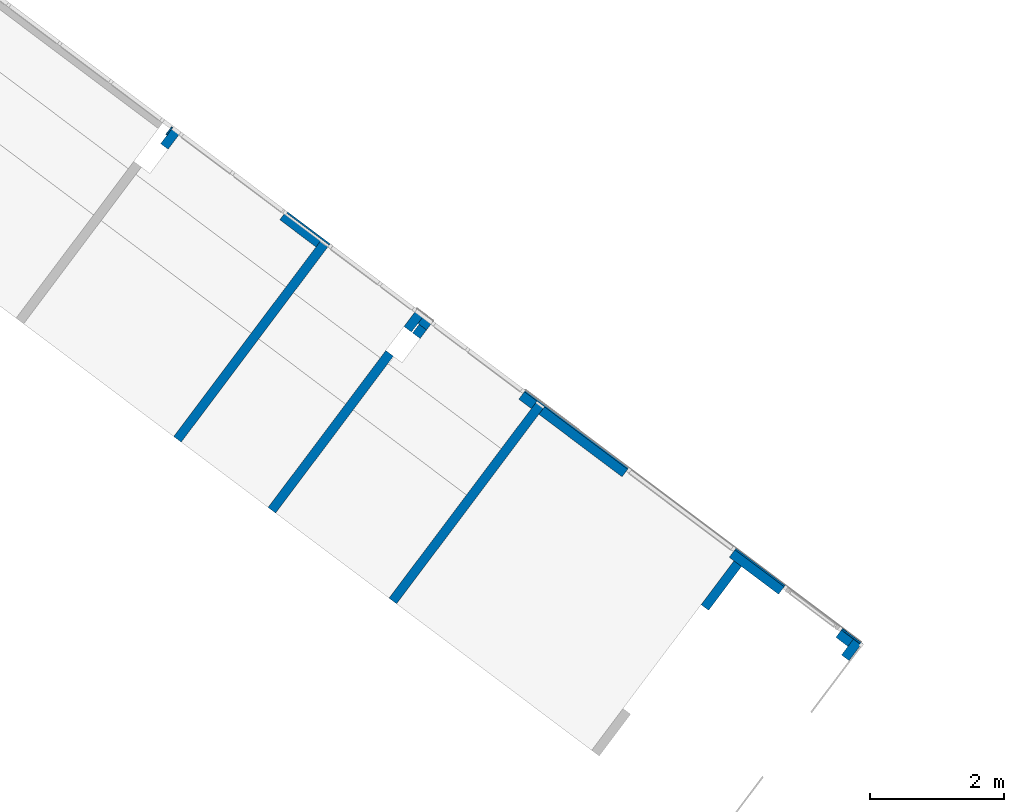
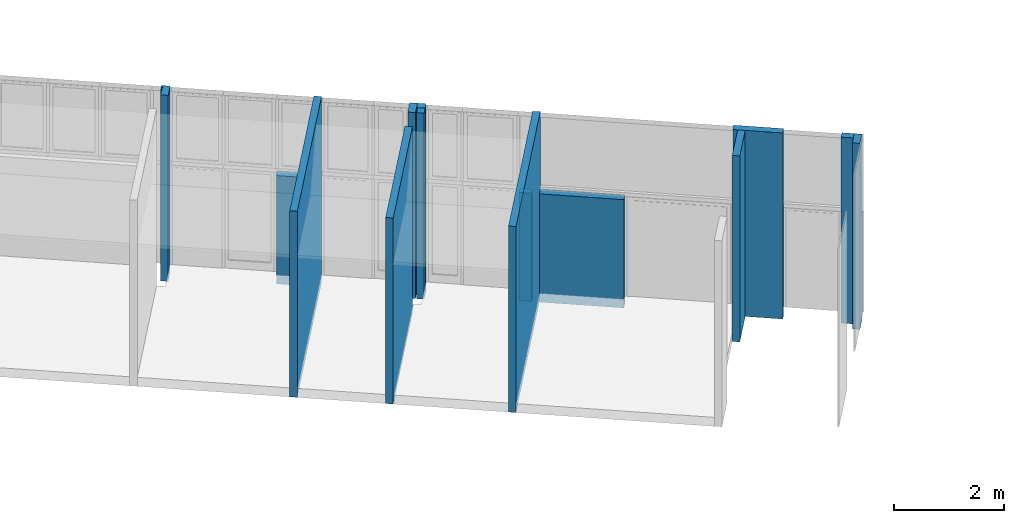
# One storey, part 7 of 18: 19 walls.
"""IFC2X3 building model written with IfcOpenShell, lengths in metres."""

from ifc_helpers import new_model, entity, si_unit, converted_unit, derived_unit, direction, frame, frame_2d, origin, place, context, subcontext, project, spatial, rectangle, extrude, material, layer, layer_set, layer_usage, type_object, element, save


model = new_model("IFC2X3")

# Units and contexts
model_context = context("Model", 3, precision=1e-05, world=origin(), true_north=direction((6.123031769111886e-17, 1.0)))
body_context = subcontext(model_context, "Body", "Model", "MODEL_VIEW")
ifc_project = project(units=[si_unit("LENGTHUNIT", "METRE"), si_unit("AREAUNIT", "SQUARE_METRE"), si_unit("VOLUMEUNIT", "CUBIC_METRE"), converted_unit("PLANEANGLEUNIT", "DEGREE", entity("IfcRatioMeasure", 0.017453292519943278), si_unit("PLANEANGLEUNIT", "RADIAN"), dimensions=[0, 0, 0, 0, 0, 0, 0]), si_unit("MASSUNIT", "GRAM", prefix="KILO"), derived_unit("MASSDENSITYUNIT", [(si_unit("MASSUNIT", "GRAM", prefix="KILO"), 1), (si_unit("LENGTHUNIT", "METRE"), -3)]), derived_unit("IONCONCENTRATIONUNIT", [(si_unit("MASSUNIT", "GRAM", prefix="KILO"), 1), (si_unit("LENGTHUNIT", "METRE"), -3)]), derived_unit("MOMENTOFINERTIAUNIT", [(si_unit("LENGTHUNIT", "METRE"), 4)]), si_unit("TIMEUNIT", "SECOND"), si_unit("FREQUENCYUNIT", "HERTZ"), si_unit("THERMODYNAMICTEMPERATUREUNIT", "DEGREE_CELSIUS"), derived_unit("THERMALTRANSMITTANCEUNIT", [(si_unit("MASSUNIT", "GRAM", prefix="KILO"), 1), (si_unit("THERMODYNAMICTEMPERATUREUNIT", "KELVIN"), -1), (si_unit("TIMEUNIT", "SECOND"), -3)]), derived_unit("THERMALCONDUCTANCEUNIT", [(si_unit("MASSUNIT", "GRAM", prefix="KILO"), 1), (si_unit("THERMODYNAMICTEMPERATUREUNIT", "KELVIN"), -1), (si_unit("TIMEUNIT", "SECOND"), -3), (si_unit("LENGTHUNIT", "METRE"), 1)]), derived_unit("VOLUMETRICFLOWRATEUNIT", [(si_unit("LENGTHUNIT", "METRE"), 3), (si_unit("TIMEUNIT", "SECOND"), -1)]), derived_unit("MASSFLOWRATEUNIT", [(si_unit("MASSUNIT", "GRAM", prefix="KILO"), 1), (si_unit("TIMEUNIT", "SECOND"), -1)]), derived_unit("ROTATIONALFREQUENCYUNIT", [(si_unit("TIMEUNIT", "SECOND"), -1)]), si_unit("ELECTRICCURRENTUNIT", "AMPERE"), si_unit("ELECTRICVOLTAGEUNIT", "VOLT"), si_unit("POWERUNIT", "WATT"), si_unit("FORCEUNIT", "NEWTON", prefix="KILO"), si_unit("ILLUMINANCEUNIT", "LUX"), si_unit("LUMINOUSFLUXUNIT", "LUMEN"), si_unit("LUMINOUSINTENSITYUNIT", "CANDELA"), derived_unit("USERDEFINED", [(si_unit("MASSUNIT", "GRAM", prefix="KILO"), -1), (si_unit("LENGTHUNIT", "METRE"), -2), (si_unit("TIMEUNIT", "SECOND"), 3), (si_unit("LUMINOUSFLUXUNIT", "LUMEN"), 1)]), derived_unit("USERDEFINED", [(si_unit("MASSUNIT", "GRAM", prefix="KILO"), 1), (si_unit("TIMEUNIT", "SECOND"), -3), (si_unit("LENGTHUNIT", "METRE"), 3), (si_unit("ELECTRICCURRENTUNIT", "AMPERE"), -2)]), derived_unit("SOUNDPOWERUNIT", [(si_unit("MASSUNIT", "GRAM", prefix="KILO"), 1), (si_unit("TIMEUNIT", "SECOND"), -3), (si_unit("LENGTHUNIT", "METRE"), 2)]), derived_unit("SOUNDPRESSUREUNIT", [(si_unit("MASSUNIT", "GRAM", prefix="KILO"), 1), (si_unit("LENGTHUNIT", "METRE"), -1), (si_unit("TIMEUNIT", "SECOND"), -2)]), derived_unit("LINEARVELOCITYUNIT", [(si_unit("LENGTHUNIT", "METRE"), 1), (si_unit("TIMEUNIT", "SECOND"), -1)]), si_unit("PRESSUREUNIT", "PASCAL"), derived_unit("USERDEFINED", [(si_unit("MASSUNIT", "GRAM", prefix="KILO"), 1), (si_unit("LENGTHUNIT", "METRE"), -2), (si_unit("TIMEUNIT", "SECOND"), -2)]), derived_unit("LINEARFORCEUNIT", [(si_unit("MASSUNIT", "GRAM", prefix="KILO"), 1), (si_unit("TIMEUNIT", "SECOND"), -2)]), derived_unit("PLANARFORCEUNIT", [(si_unit("MASSUNIT", "GRAM", prefix="KILO"), 1), (si_unit("LENGTHUNIT", "METRE"), -1), (si_unit("TIMEUNIT", "SECOND"), -2)]), derived_unit("SPECIFICHEATCAPACITYUNIT", [(si_unit("THERMODYNAMICTEMPERATUREUNIT", "KELVIN"), -1), (si_unit("LENGTHUNIT", "METRE"), 2), (si_unit("TIMEUNIT", "SECOND"), -2)]), derived_unit("HEATINGVALUEUNIT", [(si_unit("LENGTHUNIT", "METRE"), 2), (si_unit("TIMEUNIT", "SECOND"), -2)]), derived_unit("VAPORPERMEABILITYUNIT", [(si_unit("LENGTHUNIT", "METRE"), -1), (si_unit("TIMEUNIT", "SECOND"), 1)]), derived_unit("DYNAMICVISCOSITYUNIT", [(si_unit("MASSUNIT", "GRAM", prefix="KILO"), 1), (si_unit("TIMEUNIT", "SECOND"), -1), (si_unit("LENGTHUNIT", "METRE"), -1)]), derived_unit("THERMALEXPANSIONCOEFFICIENTUNIT", [(si_unit("THERMODYNAMICTEMPERATUREUNIT", "KELVIN"), -1)]), derived_unit("MODULUSOFELASTICITYUNIT", [(si_unit("MASSUNIT", "GRAM", prefix="KILO"), 1), (si_unit("LENGTHUNIT", "METRE"), -1), (si_unit("TIMEUNIT", "SECOND"), -2)]), derived_unit("ISOTHERMALMOISTURECAPACITYUNIT", [(si_unit("LENGTHUNIT", "METRE"), 3), (si_unit("MASSUNIT", "GRAM", prefix="KILO"), -1)]), derived_unit("MOISTUREDIFFUSIVITYUNIT", [(si_unit("TIMEUNIT", "SECOND"), -1), (si_unit("LENGTHUNIT", "METRE"), 2)])], contexts=[model_context])

# Site, building, storey
site_placement = place(None, frame((0.0, 0.0, 235.0), z_axis=(0.0, 0.0, 1.0), x_axis=(-0.7996477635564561, 0.6004693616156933, 0.0)))
site = spatial("IfcSite", under=ifc_project, at=site_placement, Name="Default", CompositionType="ELEMENT")
building_placement = place(site_placement, origin())
building = spatial("IfcBuilding", under=site, at=building_placement, CompositionType="ELEMENT")
storey_placement = place(building_placement, frame((0.0, 0.0, -4.459999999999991)))
storey = spatial("IfcBuildingStorey", under=building, at=storey_placement, Name="PS1- Vestuari", CompositionType="ELEMENT", Elevation=-4.459999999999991)

# Walls
ifc_material_1 = material(Name="_Ceràmica- ENV")
ifc_layer_1 = layer(ifc_material_1, 0.14)
ifc_layer_set_1 = layer_set([ifc_layer_1], Name="Muro básico:ENV- Ceràmic- 14 cm")
ifc_layer_usage_1 = layer_usage(ifc_layer_set_1, "AXIS2", "NEGATIVE", 0.07)
wall_type_1 = type_object("IfcWallType", Name="Muro básico:ENV- Ceràmic- 14 cm", PredefinedType="STANDARD", material=ifc_layer_set_1)
wall_1_placement = place(storey_placement, frame((53.81514768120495, -40.140191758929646, -0.2), z_axis=(0.0, 0.0, 1.0), x_axis=(0.0, -1.0, 0.0)))
element("IfcWallStandardCase", 1, at=wall_1_placement, inside=storey, type_object=wall_type_1, material=ifc_layer_usage_1, Name="Muro básico:ENV- Ceràmic- 14 cm", ObjectType="Muro básico:ENV- Ceràmic- 14 cm", context=body_context, shape_type="SweptSolid", body=[
    extrude(rectangle(XDim=0.30000000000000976, YDim=0.14000000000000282, at=frame_2d((0.15000000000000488, 0.0), x_axis=(-1.0, 0.0))), origin(), (0.0, 0.0, 1.0), 4.14),
])
wall_2_placement = place(storey_placement, frame((51.036147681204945, -40.440191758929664, -0.2), z_axis=(0.0, 0.0, 1.0), x_axis=(0.0, 1.0, 0.0)))
element("IfcWallStandardCase", 2, at=wall_2_placement, inside=storey, type_object=wall_type_1, material=ifc_layer_usage_1, Name="Muro básico:ENV- Ceràmic- 14 cm", ObjectType="Muro básico:ENV- Ceràmic- 14 cm", context=body_context, shape_type="SweptSolid", body=[
    extrude(rectangle(XDim=3.6750000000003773, YDim=0.14000000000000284, at=frame_2d((1.8375000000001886, 1.1171619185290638e-15), x_axis=(-1.0, 0.0))), origin(), (0.0, 0.0, 1.0), 4.139999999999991),
])
wall_3_placement = place(storey_placement, frame((51.106147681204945, -40.370191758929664, -0.2)))
element("IfcWallStandardCase", 3, at=wall_3_placement, inside=storey, type_object=wall_type_1, material=ifc_layer_usage_1, Name="Muro básico:ENV- Ceràmic- 14 cm", ObjectType="Muro básico:ENV- Ceràmic- 14 cm", context=body_context, shape_type="SweptSolid", body=[
    extrude(rectangle(XDim=0.6749999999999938, YDim=0.14000000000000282, at=frame_2d((0.3374999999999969, 0.0), x_axis=(-1.0, 0.0))), origin(), (0.0, 0.0, 1.0), 2.41),
])
wall_4_placement = place(storey_placement, frame((49.275147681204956, -40.44019175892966, -0.2), z_axis=(0.0, 0.0, 1.0), x_axis=(0.0, 1.0, 0.0)))
element("IfcWallStandardCase", 4, at=wall_4_placement, inside=storey, type_object=wall_type_1, material=ifc_layer_usage_1, Name="Muro básico:ENV- Ceràmic- 14 cm", ObjectType="Muro básico:ENV- Ceràmic- 14 cm", context=body_context, shape_type="SweptSolid", body=[
    extrude(rectangle(XDim=0.30000000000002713, YDim=0.14000000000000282, at=frame_2d((0.15000000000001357, 4.440892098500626e-16), x_axis=(-1.0, 0.0))), origin(), (0.0, 0.0, 1.0), 4.14),
])
wall_5_placement = place(storey_placement, frame((49.11514768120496, -40.14019175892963, -0.2), z_axis=(0.0, 0.0, 1.0), x_axis=(0.0, -1.0, 0.0)))
element("IfcWallStandardCase", 5, at=wall_5_placement, inside=storey, type_object=wall_type_1, material=ifc_layer_usage_1, Name="Muro básico:ENV- Ceràmic- 14 cm", ObjectType="Muro básico:ENV- Ceràmic- 14 cm", context=body_context, shape_type="SweptSolid", body=[
    extrude(rectangle(XDim=0.16000000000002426, YDim=0.14000000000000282, at=frame_2d((0.08000000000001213, 0.0), x_axis=(-1.0, 0.0))), origin(), (0.0, 0.0, 1.0), 4.14),
])
wall_6_placement = place(storey_placement, frame((49.04514768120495, -40.37019175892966, -0.2)))
element("IfcWallStandardCase", 6, at=wall_6_placement, inside=storey, type_object=wall_type_1, material=ifc_layer_usage_1, Name="Muro básico:ENV- Ceràmic- 14 cm", ObjectType="Muro básico:ENV- Ceràmic- 14 cm", context=body_context, shape_type="SweptSolid", body=[
    extrude(rectangle(XDim=0.15999999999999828, YDim=0.14000000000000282, at=frame_2d((0.07999999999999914, 0.0), x_axis=(-1.0, 0.0))), origin(), (0.0, 0.0, 1.0), 4.14),
])
wall_7_placement = place(storey_placement, frame((49.275147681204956, -39.69019175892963, -0.2), z_axis=(0.0, 0.0, 1.0), x_axis=(0.0, 1.0, 0.0)))
element("IfcWallStandardCase", 7, at=wall_7_placement, inside=storey, type_object=wall_type_1, material=ifc_layer_usage_1, Name="Muro básico:ENV- Ceràmic- 14 cm", ObjectType="Muro básico:ENV- Ceràmic- 14 cm", context=body_context, shape_type="SweptSolid", body=[
    extrude(rectangle(XDim=2.9250000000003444, YDim=0.14000000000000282, at=frame_2d((1.4625000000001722, 0.0), x_axis=(-1.0, 0.0))), origin(), (0.0, 0.0, 1.0), 4.14),
])
wall_8_placement = place(storey_placement, frame((47.02014768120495, -40.44019175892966, -0.2), z_axis=(0.0, 0.0, 1.0), x_axis=(0.0, 1.0, 0.0)))
element("IfcWallStandardCase", 8, at=wall_8_placement, inside=storey, type_object=wall_type_1, material=ifc_layer_usage_1, Name="Muro básico:ENV- Ceràmic- 14 cm", ObjectType="Muro básico:ENV- Ceràmic- 14 cm", context=body_context, shape_type="SweptSolid", body=[
    extrude(rectangle(XDim=3.675000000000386, YDim=0.14000000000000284, at=frame_2d((1.837500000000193, 1.1171619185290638e-15), x_axis=(-1.0, 0.0))), origin(), (0.0, 0.0, 1.0), 4.14),
])
ifc_layer_usage_2 = layer_usage(ifc_layer_set_1, "AXIS2", "POSITIVE", -0.07)
wall_9_placement = place(storey_placement, frame((46.95014768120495, -40.37019175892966, -0.2), z_axis=(0.0, 0.0, 1.0), x_axis=(-1.0, 0.0, 0.0)))
element("IfcWallStandardCase", 9, at=wall_9_placement, inside=storey, type_object=wall_type_1, material=ifc_layer_usage_2, Name="Muro básico:ENV- Ceràmic- 14 cm", ObjectType="Muro básico:ENV- Ceràmic- 14 cm", context=body_context, shape_type="SweptSolid", body=[
    extrude(rectangle(XDim=1.5520000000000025, YDim=0.14000000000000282, at=frame_2d((0.7760000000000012, 0.0), x_axis=(-1.0, 0.0))), origin(), (0.0, 0.0, 1.0), 2.41),
])
wall_10_placement = place(storey_placement, frame((43.24014768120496, -40.300191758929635, -0.2), z_axis=(0.0, 0.0, 1.0), x_axis=(0.0, 1.0, 0.0)))
element("IfcWallStandardCase", 10, at=wall_10_placement, inside=storey, type_object=wall_type_1, material=ifc_layer_usage_1, Name="Muro básico:ENV- Ceràmic- 14 cm", ObjectType="Muro básico:ENV- Ceràmic- 14 cm", context=body_context, shape_type="SweptSolid", body=[
    extrude(rectangle(XDim=0.817001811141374, YDim=0.14000000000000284, at=frame_2d((0.408500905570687, 1.214306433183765e-15), x_axis=(-1.0, 0.0))), origin(), (0.0, 0.0, 1.0), 4.14),
])
wall_11_placement = place(storey_placement, frame((41.18514768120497, -40.37019175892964, -0.2)))
element("IfcWallStandardCase", 11, at=wall_11_placement, inside=storey, type_object=wall_type_1, material=ifc_layer_usage_1, Name="Muro básico:ENV- Ceràmic- 14 cm", ObjectType="Muro básico:ENV- Ceràmic- 14 cm", context=body_context, shape_type="SweptSolid", body=[
    extrude(rectangle(XDim=0.22499999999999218, YDim=0.14000000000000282, at=frame_2d((0.11249999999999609, 0.0), x_axis=(-1.0, 0.0))), origin(), (0.0, 0.0, 1.0), 4.14),
])
wall_12_placement = place(storey_placement, frame((41.11514768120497, -40.44019175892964, -0.2), z_axis=(0.0, 0.0, 1.0), x_axis=(0.0, 1.0, 0.0)))
element("IfcWallStandardCase", 12, at=wall_12_placement, inside=storey, type_object=wall_type_1, material=ifc_layer_usage_2, Name="Muro básico:ENV- Ceràmic- 14 cm", ObjectType="Muro básico:ENV- Ceràmic- 14 cm", context=body_context, shape_type="SweptSolid", body=[
    extrude(rectangle(XDim=0.30000000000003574, YDim=0.14000000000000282, at=frame_2d((0.15000000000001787, 0.0), x_axis=(-1.0, 0.0))), origin(), (0.0, 0.0, 1.0), 4.14),
])
wall_13_placement = place(storey_placement, frame((53.905147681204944, -40.37019175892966, -0.2), z_axis=(0.0, 0.0, 1.0), x_axis=(-1.0, 0.0, 0.0)))
element("IfcWallStandardCase", 13, at=wall_13_placement, inside=storey, type_object=wall_type_1, material=ifc_layer_usage_2, Name="Muro básico:ENV- Ceràmic- 14 cm", ObjectType="Muro básico:ENV- Ceràmic- 14 cm", context=body_context, shape_type="SweptSolid", body=[
    extrude(rectangle(XDim=0.019999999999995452, YDim=0.14000000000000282, at=frame_2d((0.009999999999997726, 0.0), x_axis=(-1.0, 0.0))), origin(), (0.0, 0.0, 1.0), 4.14),
])
wall_14_placement = place(storey_placement, frame((47.32414768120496, -40.37019175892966, -0.2), z_axis=(0.0, 0.0, 1.0), x_axis=(-1.0, 0.0, 0.0)))
element("IfcWallStandardCase", 14, at=wall_14_placement, inside=storey, type_object=wall_type_1, material=ifc_layer_usage_2, Name="Muro básico:ENV- Ceràmic- 14 cm", ObjectType="Muro básico:ENV- Ceràmic- 14 cm", context=body_context, shape_type="SweptSolid", body=[
    extrude(rectangle(XDim=0.23400000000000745, YDim=0.14000000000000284, at=frame_2d((0.11700000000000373, 5.273559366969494e-16), x_axis=(-1.0, 0.0))), origin(), (0.0, 0.0, 1.0), 2.41),
])
wall_15_placement = place(storey_placement, frame((42.480147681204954, -40.37019175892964, -0.2)))
element("IfcWallStandardCase", 15, at=wall_15_placement, inside=storey, type_object=wall_type_1, material=ifc_layer_usage_1, Name="Muro básico:ENV- Ceràmic- 14 cm", ObjectType="Muro básico:ENV- Ceràmic- 14 cm", context=body_context, shape_type="SweptSolid", body=[
    extrude(rectangle(XDim=0.9179999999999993, YDim=0.14000000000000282, at=frame_2d((0.45899999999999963, 0.0), x_axis=(-1.0, 0.0))), origin(), (0.0, 0.0, 1.0), 4.14),
])
ifc_material_2 = material(Name="_Enrajolat Gresite- REV- PAV")
ifc_layer_2 = layer(ifc_material_2, 0.01)
ifc_material_3 = material(Name="_Morter Base - REV")
ifc_layer_3 = layer(ifc_material_3, 0.015)
ifc_layer_set_2 = layer_set([ifc_layer_2, ifc_layer_3], Name="Muro básico:REV- Enrajolat Gresite- T1- 2,5 cm")
ifc_layer_usage_3 = layer_usage(ifc_layer_set_2, "AXIS2", "NEGATIVE", 0.0125)
wall_type_2 = type_object("IfcWallType", Name="Muro básico:REV- Enrajolat Gresite- T1- 2,5 cm", PredefinedType="STANDARD", material=ifc_layer_set_2)
wall_16_placement = place(storey_placement, frame((51.78114768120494, -40.45269175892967, -0.019999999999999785), z_axis=(0.0, 0.0, 1.0), x_axis=(-1.0, 0.0, 0.0)))
element("IfcWallStandardCase", 16, at=wall_16_placement, inside=storey, type_object=wall_type_2, material=ifc_layer_usage_3, Name="Muro básico:REV- Enrajolat Gresite- T1- 2,5 cm", ObjectType="Muro básico:REV- Enrajolat Gresite- T1- 2,5 cm", context=body_context, shape_type="SweptSolid", body=[
    extrude(rectangle(XDim=0.8149999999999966, YDim=0.02499999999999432, at=frame_2d((0.4074999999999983, 0.0), x_axis=(-1.0, 0.0))), origin(), (0.0, 0.0, 1.0), 2.23),
])
wall_17_placement = place(storey_placement, frame((47.32414768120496, -40.45269175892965, -0.019999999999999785), z_axis=(0.0, 0.0, 1.0), x_axis=(-1.0, 0.0, 0.0)))
element("IfcWallStandardCase", 17, at=wall_17_placement, inside=storey, type_object=wall_type_2, material=ifc_layer_usage_3, Name="Muro básico:REV- Enrajolat Gresite- T1- 2,5 cm", ObjectType="Muro básico:REV- Enrajolat Gresite- T1- 2,5 cm", context=body_context, shape_type="SweptSolid", body=[
    extrude(rectangle(XDim=1.9260000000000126, YDim=0.02499999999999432, at=frame_2d((0.9630000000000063, 0.0), x_axis=(-1.0, 0.0))), origin(), (0.0, 0.0, 1.0), 2.23),
])
wall_18_placement = place(storey_placement, frame((41.41014768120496, -40.45269175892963, -0.019999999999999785), z_axis=(0.0, 0.0, 1.0), x_axis=(-1.0, 0.0, 0.0)))
element("IfcWallStandardCase", 18, at=wall_18_placement, inside=storey, type_object=wall_type_2, material=ifc_layer_usage_3, Name="Muro básico:REV- Enrajolat Gresite- T1- 2,5 cm", ObjectType="Muro básico:REV- Enrajolat Gresite- T1- 2,5 cm", context=body_context, shape_type="SweptSolid", body=[
    extrude(rectangle(XDim=0.3899999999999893, YDim=0.02499999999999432, at=frame_2d((0.19499999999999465, 7.173081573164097e-16), x_axis=(-1.0, 0.0))), origin(), (0.0, 0.0, 1.0), 2.23),
])
ifc_layer_usage_4 = layer_usage(ifc_layer_set_2, "AXIS2", "POSITIVE", -0.0125)
wall_19_placement = place(storey_placement, frame((42.480147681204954, -40.45269175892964, -0.019999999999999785)))
element("IfcWallStandardCase", 19, at=wall_19_placement, inside=storey, type_object=wall_type_2, material=ifc_layer_usage_4, Name="Muro básico:REV- Enrajolat Gresite- T1- 2,5 cm", ObjectType="Muro básico:REV- Enrajolat Gresite- T1- 2,5 cm", context=body_context, shape_type="SweptSolid", body=[
    extrude(rectangle(XDim=0.9180000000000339, YDim=0.02499999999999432, at=frame_2d((0.45900000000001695, 0.0), x_axis=(-1.0, 0.0))), origin(), (0.0, 0.0, 1.0), 2.23),
])

save(model, "model.ifc")
